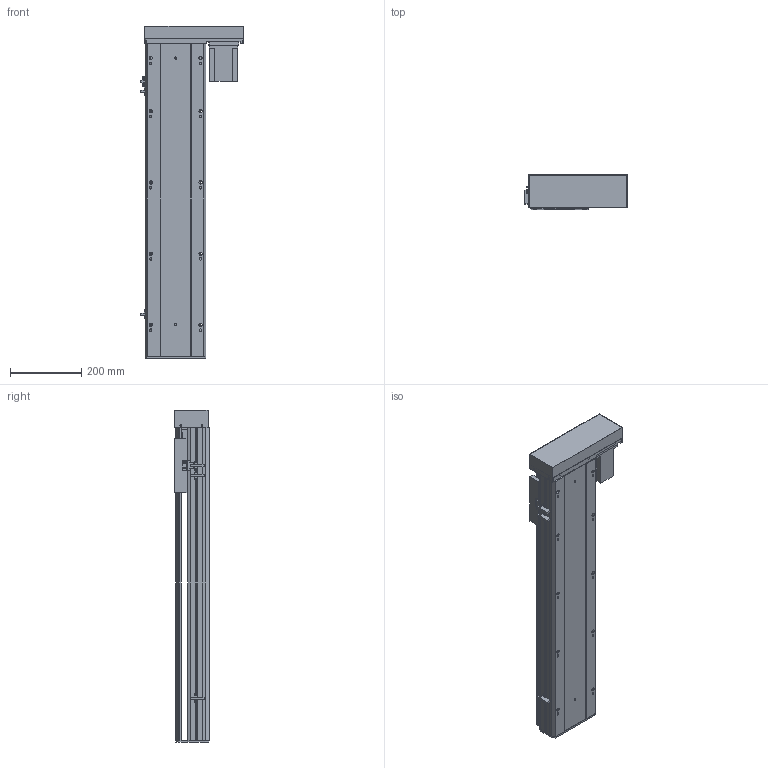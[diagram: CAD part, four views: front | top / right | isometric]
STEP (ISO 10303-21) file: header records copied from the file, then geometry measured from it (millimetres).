
FILE_DESCRIPTION (( 'STEP AP203' ), '1' );
FILE_NAME ('Y170-D10-S650-BR-P750W.STEP', '2020-01-21T12:22:20', ( '微软用户' ), ( '微软中国' ), 'SwSTEP 2.0', 'SolidWorks 2017', '' );
FILE_SCHEMA (( 'CONFIG_CONTROL_DESIGN' ));
Length unit declared in the file: millimetre
Products named in the file (12): Y170-D10-S650-BR-P750W; 侂狟750W; EGH20賑輸_蕼偞; Y雄赽釱-耜蚾; Y170-陔遴奻裔-BR; Y-BL.BR-俋欶; Y--BL蟀諉啣-陔遴-; Y170耜裔--準---; YD-Y100-135-新外置传感挡片(通用）; 170--掛极-BR; Y100-135俋离換覜ん; Y170-BL-P750W楊擘啣
Assembly tree (14 placements, depth 2):
  Y170-D10-S650-BR-P750W
    Y170耜裔--準---
    170--掛极-BR
    Y170-BL-P750W楊擘啣
    侂狟750W
    EGH20賑輸_蕼偞  x2
    Y雄赽釱-耜蚾
    Y170-陔遴奻裔-BR
    Y-BL.BR-俋欶
    Y--BL蟀諉啣-陔遴-
    YD-Y100-135-新外置传感挡片(通用）
    Y100-135俋离換覜ん  x3
Bounding box: 289 x 97 x 933.5 mm (x, y, z)
Volume: 4782048.6 mm3; surface area: 1619331.1 mm2
Topology: 14 solids, 14 shells, 909 faces, 2546 edges, 1680 vertices
Faces by surface type: cylinder 450, plane 443, cone 16
Entity records: 28570 total; most frequent: CARTESIAN_POINT 4998, DIRECTION 4748, ORIENTED_EDGE 4588, EDGE_CURVE 2294, AXIS2_PLACEMENT_3D 1682, VERTEX_POINT 1524, VECTOR 1384, LINE 1384
